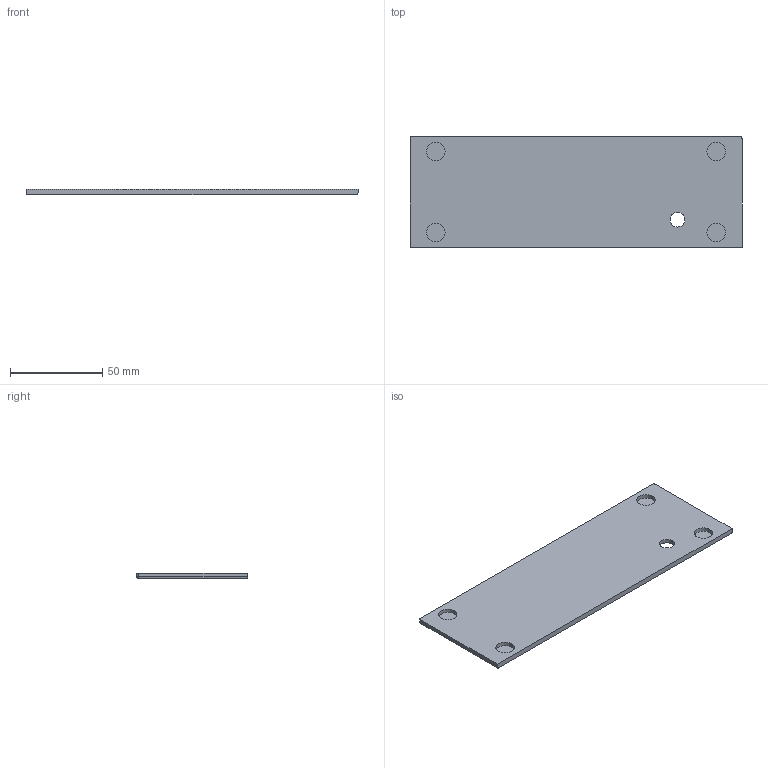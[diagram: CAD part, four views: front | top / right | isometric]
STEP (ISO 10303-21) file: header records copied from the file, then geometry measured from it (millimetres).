
FILE_DESCRIPTION (( 'STEP AP214' ), '1' );
FILE_NAME ('Wand_Hinten.STEP', '2025-11-05T19:00:14', ( '' ), ( '' ), 'SwSTEP 2.0', 'SolidWorks 2025', '' );
FILE_SCHEMA (( 'AUTOMOTIVE_DESIGN' ));
Length unit declared in the file: millimetre
Products named in the file (1): Wand_Hinten
Bounding box: 180 x 60 x 3 mm (x, y, z)
Volume: 31479.1 mm3; surface area: 23145.4 mm2
Topology: 1 solids, 1 shells, 29 faces, 63 edges, 38 vertices
Faces by surface type: cylinder 15, plane 10, cone 2, sphere 2
Entity records: 810 total; most frequent: DIRECTION 153, CARTESIAN_POINT 129, ORIENTED_EDGE 122, AXIS2_PLACEMENT_3D 62, EDGE_CURVE 61, VERTEX_POINT 38, EDGE_LOOP 35, CIRCLE 32
